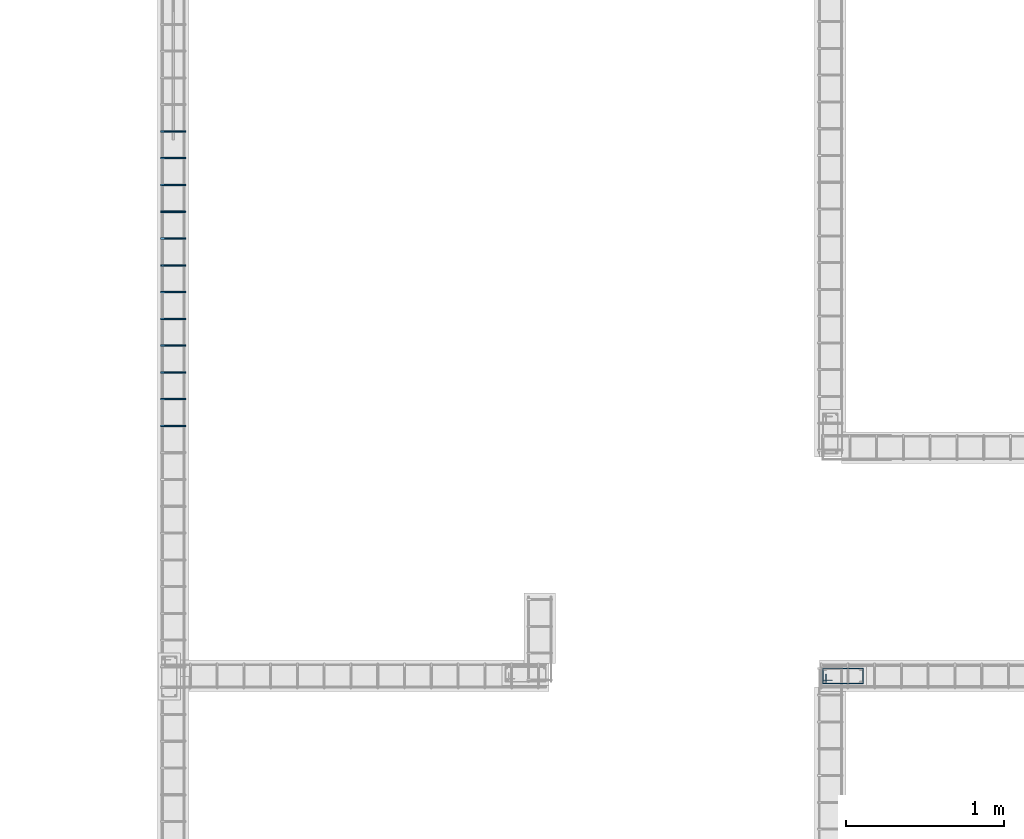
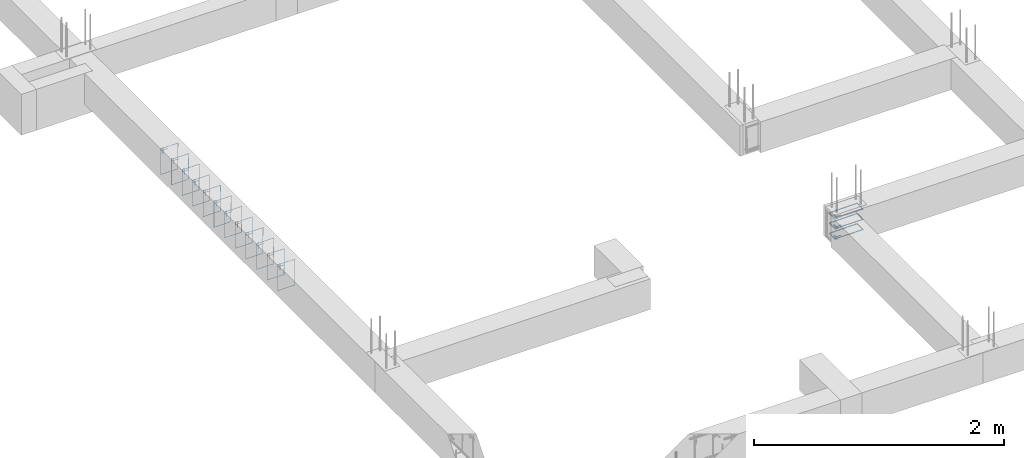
# One storey, part 53 of 150: 15 reinforcing bars.
"""IFC4 building model written with IfcOpenShell, lengths in centimetres."""

from ifc_helpers import new_model, entity, si_unit, derived_unit, frame, origin_with_axes, place, context, project, spatial, source, transform, mapped, element, save


model = new_model("IFC4")

# Units and contexts
model_context = context("Model", 3, precision=1e-05, world=origin_with_axes(), identifier="Body")
ifc_project = project(units=[si_unit("LENGTHUNIT", "METRE", prefix="CENTI"), si_unit("VOLUMEUNIT", "CUBIC_METRE"), si_unit("AREAUNIT", "SQUARE_METRE"), si_unit("POWERUNIT", "WATT"), si_unit("LUMINOUSFLUXUNIT", "LUMEN"), si_unit("ELECTRICCURRENTUNIT", "AMPERE"), si_unit("PRESSUREUNIT", "PASCAL", prefix="KILO"), si_unit("MASSUNIT", "GRAM", prefix="KILO"), si_unit("PLANEANGLEUNIT", "RADIAN"), derived_unit("VOLUMETRICFLOWRATEUNIT", [(si_unit("LENGTHUNIT", "METRE"), 3), (si_unit("TIMEUNIT", "SECOND"), -1)])], contexts=[model_context])

# Site, building, storey
site_placement = place(None, frame((-4000.0, 0.0, 0.0), z_axis=(0.0, 0.0, 1.0), x_axis=(1.0, 0.0, 0.0)))
site = spatial("IfcSite", under=ifc_project, at=site_placement, Name="PADRÃO")
building_placement = place(site_placement, frame((0.0, 0.0, -14.0)))
building = spatial("IfcBuilding", under=site, at=building_placement, Name="CRECHE PRÉ-ESCOLA TIPO 2")
placement = place(building_placement, origin_with_axes())
storey_placement = place(placement, frame((0.0, 0.0, 30.0), z_axis=(0.0, 0.0, 1.0), x_axis=(1.0, 0.0, 0.0)))
storey = spatial("IfcBuildingStorey", under=building, at=storey_placement, Name="VIGA BALDRAME", CompositionType="ELEMENT", Elevation=16.0)

# Reinforcing bars
shared_shape_1 = source(origin_with_axes(), model_context, "Body", "AdvancedSweptSolid", [
    entity("IfcSweptDiskSolid", entity("IfcCompositeCurve", [entity("IfcCompositeCurveSegment", "CONTINUOUS", True, entity("IfcPolyline", [entity("IfcCartesianPoint", [4.25, 21.75, 0.0]), entity("IfcCartesianPoint", [4.25, 27.75, 0.0])])), entity("IfcCompositeCurveSegment", "CONTINUOUS", True, entity("IfcPolyline", [entity("IfcCartesianPoint", [4.25, 27.75, 0.0]), entity("IfcCartesianPoint", [2.25, 27.75, 0.0])])), entity("IfcCompositeCurveSegment", "CONTINUOUS", True, entity("IfcPolyline", [entity("IfcCartesianPoint", [2.25, 27.75, 0.0]), entity("IfcCartesianPoint", [2.25, 2.25, 0.0])])), entity("IfcCompositeCurveSegment", "CONTINUOUS", True, entity("IfcPolyline", [entity("IfcCartesianPoint", [2.25, 2.25, 0.0]), entity("IfcCartesianPoint", [11.75, 2.25, 0.0])])), entity("IfcCompositeCurveSegment", "CONTINUOUS", True, entity("IfcPolyline", [entity("IfcCartesianPoint", [11.75, 2.25, 0.0]), entity("IfcCartesianPoint", [11.75, 27.75, -0.5])])), entity("IfcCompositeCurveSegment", "CONTINUOUS", True, entity("IfcPolyline", [entity("IfcCartesianPoint", [11.75, 27.75, -0.5]), entity("IfcCartesianPoint", [2.25, 27.75, -0.5])])), entity("IfcCompositeCurveSegment", "CONTINUOUS", True, entity("IfcPolyline", [entity("IfcCartesianPoint", [2.25, 27.75, -0.5]), entity("IfcCartesianPoint", [2.25, 25.75, -0.5])])), entity("IfcCompositeCurveSegment", "CONTINUOUS", True, entity("IfcPolyline", [entity("IfcCartesianPoint", [2.25, 25.75, -0.5]), entity("IfcCartesianPoint", [8.25, 25.75, -0.5])]))], False), 0.25),
])
for number, where, z_axis, x_axis, name in (
    (1, (2966.24, 1245.52, -15.0), (0.0, 0.0, 1.0), (0.0, 1.0, 0.0), "P112 - Estribo"),
    (2, (2966.24, 1245.52, -25.0), (0.0, 0.0, 1.0), (0.0, 1.0, 0.0), "P112 - Estribo"),
    (3, (2966.24, 1245.52, -5.0), (0.0, 0.0, 1.0), (0.0, 1.0, 0.0), "P112 - Estribo"),
):
    element("IfcReinforcingBar", number, at=place(storey_placement, frame(where, z_axis=z_axis, x_axis=x_axis)), inside=storey, Name=name, BarLength=0.0, CrossSectionArea=1.9634954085e-05, NominalDiameter=0.5, PredefinedType="MAIN", context=model_context, shape_type="MappedRepresentation", body=[
        mapped(shared_shape_1, transform((0.0, 0.0, 0.0), scale=1.0)),
    ])
shared_shape_2 = source(origin_with_axes(), model_context, "Body", "AdvancedSweptSolid", [
    entity("IfcSweptDiskSolid", entity("IfcCompositeCurve", [entity("IfcCompositeCurveSegment", "CONTINUOUS", True, entity("IfcPolyline", [entity("IfcCartesianPoint", [2.0, -6.0, 0.0]), entity("IfcCartesianPoint", [2.0, 0.0, 0.0])])), entity("IfcCompositeCurveSegment", "CONTINUOUS", True, entity("IfcPolyline", [entity("IfcCartesianPoint", [2.0, 0.0, 0.0]), entity("IfcCartesianPoint", [0.0, 0.0, 0.0])])), entity("IfcCompositeCurveSegment", "CONTINUOUS", True, entity("IfcPolyline", [entity("IfcCartesianPoint", [0.0, 0.0, 0.0]), entity("IfcCartesianPoint", [0.0, -25.5, 0.0])])), entity("IfcCompositeCurveSegment", "CONTINUOUS", True, entity("IfcPolyline", [entity("IfcCartesianPoint", [0.0, -25.5, 0.0]), entity("IfcCartesianPoint", [15.5, -25.5, 0.0])])), entity("IfcCompositeCurveSegment", "CONTINUOUS", True, entity("IfcPolyline", [entity("IfcCartesianPoint", [15.5, -25.5, 0.0]), entity("IfcCartesianPoint", [15.5, 0.0, 0.5])])), entity("IfcCompositeCurveSegment", "CONTINUOUS", True, entity("IfcPolyline", [entity("IfcCartesianPoint", [15.5, 0.0, 0.5]), entity("IfcCartesianPoint", [0.0, 0.0, 0.5])])), entity("IfcCompositeCurveSegment", "CONTINUOUS", True, entity("IfcPolyline", [entity("IfcCartesianPoint", [0.0, 0.0, 0.5]), entity("IfcCartesianPoint", [0.0, -2.0, 0.5])])), entity("IfcCompositeCurveSegment", "CONTINUOUS", True, entity("IfcPolyline", [entity("IfcCartesianPoint", [0.0, -2.0, 0.5]), entity("IfcCartesianPoint", [6.0, -2.0, 0.5])]))], False), 0.25),
])
for number, where, z_axis, x_axis, name in (
    (4, (2518.25, 1428.46, -2.25), (0.0, -1.0, 0.0), (1.0, 0.0, 0.0), "V196 - Estribo"),
    (5, (2518.25, 1411.46, -2.25), (0.0, -1.0, 0.0), (1.0, 0.0, 0.0), "V196 - Estribo"),
    (6, (2518.25, 1445.46, -2.25), (0.0, -1.0, 0.0), (1.0, 0.0, 0.0), "V196 - Estribo"),
    (7, (2518.25, 1462.46, -2.25), (0.0, -1.0, 0.0), (1.0, 0.0, 0.0), "V196 - Estribo"),
    (8, (2518.25, 1479.46, -2.25), (0.0, -1.0, 0.0), (1.0, 0.0, 0.0), "V196 - Estribo"),
    (9, (2518.25, 1496.46, -2.25), (0.0, -1.0, 0.0), (1.0, 0.0, 0.0), "V196 - Estribo"),
    (10, (2518.25, 1513.46, -2.25), (0.0, -1.0, 0.0), (1.0, 0.0, 0.0), "V196 - Estribo"),
    (11, (2518.25, 1530.46, -2.25), (0.0, -1.0, 0.0), (1.0, 0.0, 0.0), "V196 - Estribo"),
    (12, (2518.25, 1564.46, -2.25), (0.0, -1.0, 0.0), (1.0, 0.0, 0.0), "V196 - Estribo"),
    (13, (2518.25, 1581.46, -2.25), (0.0, -1.0, 0.0), (1.0, 0.0, 0.0), "V196 - Estribo"),
    (14, (2518.25, 1598.46, -2.25), (0.0, -1.0, 0.0), (1.0, 0.0, 0.0), "V196 - Estribo"),
    (15, (2518.25, 1547.46, -2.25), (0.0, -1.0, 0.0), (1.0, 0.0, 0.0), "V196 - Estribo"),
):
    element("IfcReinforcingBar", number, at=place(storey_placement, frame(where, z_axis=z_axis, x_axis=x_axis)), inside=storey, Name=name, BarLength=0.0, CrossSectionArea=1.9634954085e-05, NominalDiameter=0.5, PredefinedType="MAIN", context=model_context, shape_type="MappedRepresentation", body=[
        mapped(shared_shape_2, transform((0.0, 0.0, 0.0), scale=1.0)),
    ])

save(model, "model.ifc")
